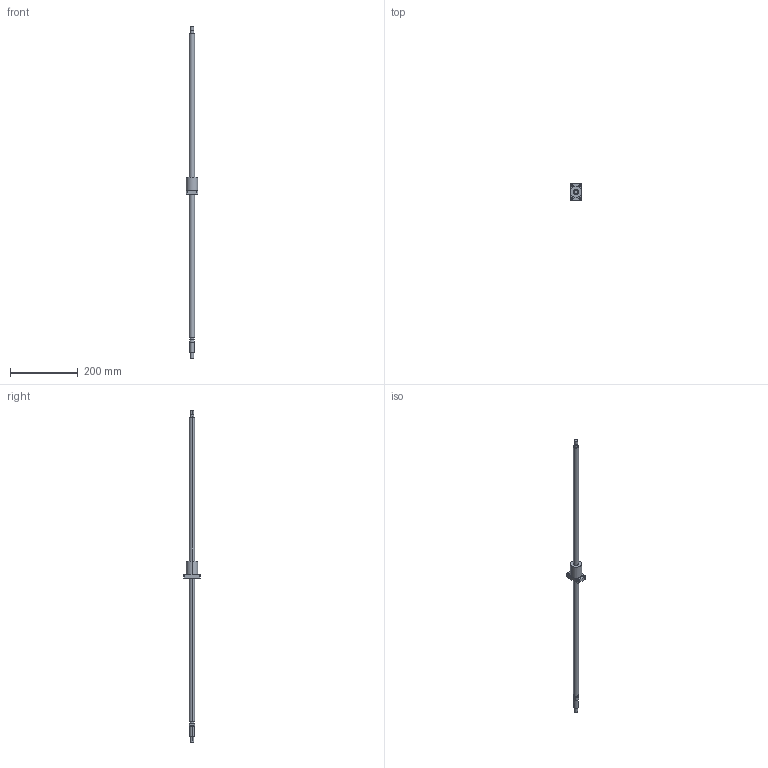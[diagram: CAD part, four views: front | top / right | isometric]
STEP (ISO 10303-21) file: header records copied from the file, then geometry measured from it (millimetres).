
FILE_DESCRIPTION((''),'2;1');
FILE_NAME('R15-10K3-FSC-889-971','2008-03-28T',('mahdi'),(''),'PRO/ENGINEER BY PARAMETRIC TECHNOLOGY CORPORATION, 2005070','PRO/ENGINEER BY PARAMETRIC TECHNOLOGY CORPORATION, 2005070','');
FILE_SCHEMA(('CONFIG_CONTROL_DESIGN'));
Length unit declared in the file: millimetre
Products named in the file (1): R15-10K3-FSC-889-971
Bounding box: 34 x 50 x 977 mm (x, y, z)
Volume: 209052.3 mm3; surface area: 52947.7 mm2
Topology: 1 solids, 1 shells, 66 faces, 148 edges, 96 vertices
Faces by surface type: cylinder 40, plane 26
Entity records: 1926 total; most frequent: DIRECTION 364, CARTESIAN_POINT 310, ORIENTED_EDGE 296, AXIS2_PLACEMENT_3D 150, EDGE_CURVE 148, VERTEX_POINT 96, EDGE_LOOP 86, CIRCLE 84
